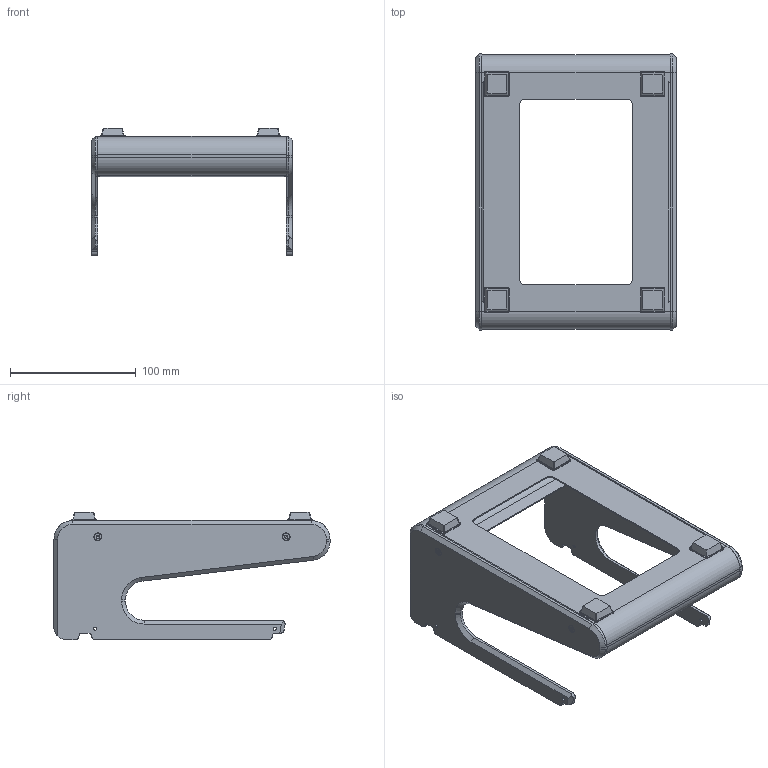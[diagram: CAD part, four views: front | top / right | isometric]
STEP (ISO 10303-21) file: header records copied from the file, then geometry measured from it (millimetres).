
FILE_DESCRIPTION (( 'STEP AP214' ), '1' );
FILE_NAME ('Supporto tavolo 010400.STEP', '2019-04-17T14:57:39', ( '' ), ( '' ), 'SwSTEP 2.0', 'SolidWorks 2017', '' );
FILE_SCHEMA (( 'AUTOMOTIVE_DESIGN' ));
Length unit declared in the file: millimetre
Products named in the file (17): Fianco sx supporto KDU-1 872507  ; BN4851 M3x8 TX10 801009; 800016-B; Fianco dx supporto KDU-1 872508; Supporto tavolo 010400; Fondo supporto tavolo KDU-1 872506
Assembly tree (11 placements, depth 2):
  Fianco sx supporto KDU-1 872507  
  BN4851 M3x8 TX10 801009
  800016-B
  Supporto tavolo 010400
    Fondo supporto tavolo KDU-1 872506
    Fianco dx supporto KDU-1 872508
    Fianco sx supporto KDU-1 872507  
    800016-B  x4
    BN4851 M3x8 TX10 801009  x4
  BN4851 M3x8 TX10 801009
Bounding box: 160 x 220 x 101.25 mm (x, y, z)
Volume: 176792.2 mm3; surface area: 146316.1 mm2
Topology: 15 solids, 15 shells, 470 faces, 1160 edges, 716 vertices
Faces by surface type: plane 214, cylinder 194, cone 54, bspline 8
Entity records: 8971 total; most frequent: DIRECTION 1533, CARTESIAN_POINT 1510, ORIENTED_EDGE 1398, EDGE_CURVE 699, AXIS2_PLACEMENT_3D 558, VERTEX_POINT 431, VECTOR 417, LINE 417
